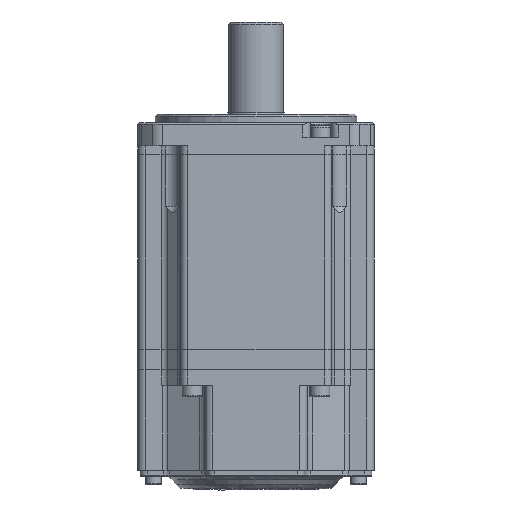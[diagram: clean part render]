
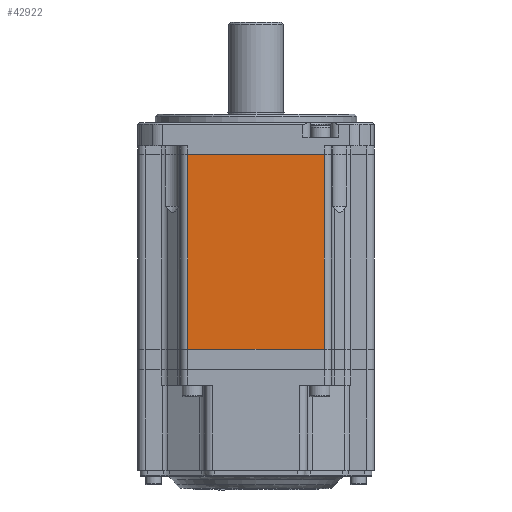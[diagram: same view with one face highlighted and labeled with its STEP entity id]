
A CAD part, front view. The second image highlights one B-rep face of the part: STEP entity #42922.
In plain terms, the highlighted planar face has unit normal (0, -1, 0).
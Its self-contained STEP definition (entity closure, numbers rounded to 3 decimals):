
#2250 = VERTEX_POINT ( 'NONE', #37592 ) ;
#3413 = CARTESIAN_POINT ( 'NONE',  ( -23.75, -41., 1000. ) ) ;
#4039 = VERTEX_POINT ( 'NONE', #27873 ) ;
#4906 = EDGE_LOOP ( 'NONE', ( #52885, #22570, #6691, #23586 ) ) ;
#6691 = ORIENTED_EDGE ( 'NONE', *, *, #31212, .T. ) ;
#7927 = CARTESIAN_POINT ( 'NONE',  ( 23.75, -41., 1000. ) ) ;
#8359 = VERTEX_POINT ( 'NONE', #39844 ) ;
#11291 = VERTEX_POINT ( 'NONE', #17736 ) ;
#12404 = VECTOR ( 'NONE', #21324, 1000. ) ;
#16310 = DIRECTION ( 'NONE',  ( 0., 0., 1. ) ) ;
#16474 = LINE ( 'NONE', #55563, #12404 ) ;
#17736 = CARTESIAN_POINT ( 'NONE',  ( 23.75, -41., 0. ) ) ;
#19062 = LINE ( 'NONE', #55689, #25115 ) ;
#21324 = DIRECTION ( 'NONE',  ( 0., 0., -1. ) ) ;
#22570 = ORIENTED_EDGE ( 'NONE', *, *, #33707, .T. ) ;
#23586 = ORIENTED_EDGE ( 'NONE', *, *, #52054, .T. ) ;
#25115 = VECTOR ( 'NONE', #29586, 1000. ) ;
#25412 = DIRECTION ( 'NONE',  ( 0., 1., 0. ) ) ;
#27645 = VECTOR ( 'NONE', #39251, 1000. ) ;
#27873 = CARTESIAN_POINT ( 'NONE',  ( -23.75, -41., 0. ) ) ;
#29586 = DIRECTION ( 'NONE',  ( -1., 0., 0. ) ) ;
#30509 = CARTESIAN_POINT ( 'NONE',  ( -23.75, -41., 0. ) ) ;
#30537 = VECTOR ( 'NONE', #30630, 1000. ) ;
#30630 = DIRECTION ( 'NONE',  ( 0., 0., -1. ) ) ;
#31212 = EDGE_CURVE ( 'NONE', #2250, #4039, #16474, .T. ) ;
#33707 = EDGE_CURVE ( 'NONE', #8359, #2250, #19062, .T. ) ;
#34013 = AXIS2_PLACEMENT_3D ( 'NONE', #3413, #25412, #16310 ) ;
#37592 = CARTESIAN_POINT ( 'NONE',  ( -23.75, -41., 67.7 ) ) ;
#39173 = LINE ( 'NONE', #30509, #27645 ) ;
#39251 = DIRECTION ( 'NONE',  ( 1., 0., 0. ) ) ;
#39844 = CARTESIAN_POINT ( 'NONE',  ( 23.75, -41., 67.7 ) ) ;
#42097 = LINE ( 'NONE', #7927, #30537 ) ;
#42922 = ADVANCED_FACE ( 'NONE', ( #51961 ), #47383, .F. ) ;
#47383 = PLANE ( 'NONE',  #34013 ) ;
#49989 = EDGE_CURVE ( 'NONE', #8359, #11291, #42097, .T. ) ;
#51961 = FACE_OUTER_BOUND ( 'NONE', #4906, .T. ) ;
#52054 = EDGE_CURVE ( 'NONE', #4039, #11291, #39173, .T. ) ;
#52885 = ORIENTED_EDGE ( 'NONE', *, *, #49989, .F. ) ;
#55563 = CARTESIAN_POINT ( 'NONE',  ( -23.75, -41., 1000. ) ) ;
#55689 = CARTESIAN_POINT ( 'NONE',  ( -198.803, -41., 67.7 ) ) ;
